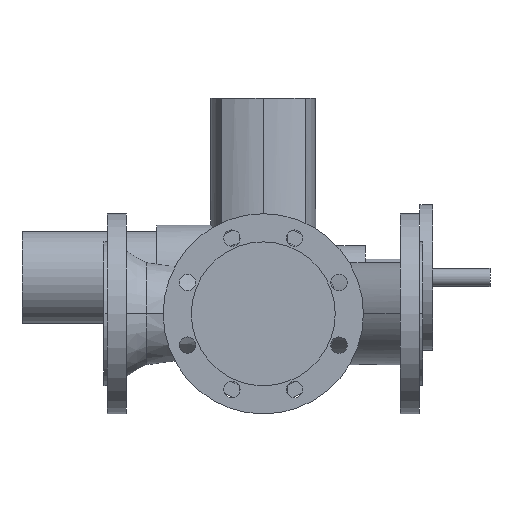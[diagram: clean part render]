
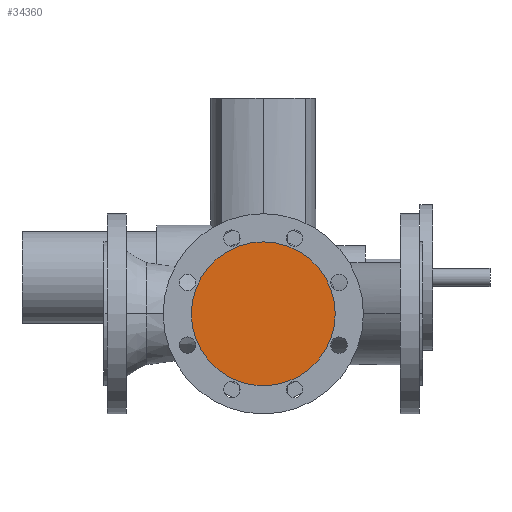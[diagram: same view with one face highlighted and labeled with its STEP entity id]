
A CAD part, front view. The second image highlights one B-rep face of the part: STEP entity #34360.
In plain terms, the highlighted planar face has unit normal (0, -1, 0).
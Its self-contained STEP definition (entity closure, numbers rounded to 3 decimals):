
#4350=CARTESIAN_POINT('',(96.,-150.,0.));
#4360=VERTEX_POINT('',#4350);
#4390=CARTESIAN_POINT('',(175.,-150.,0.));
#4400=DIRECTION('',(0.,1.,0.));
#4410=DIRECTION('',(1.,0.,0.));
#4420=AXIS2_PLACEMENT_3D('',#4390,#4400,#4410);
#4430=CIRCLE('',#4420,79.);
#4440=CARTESIAN_POINT('',(254.,-150.,0.));
#4450=VERTEX_POINT('',#4440);
#4460=EDGE_CURVE('',#4450,#4360,#4430,.T.);
#34260=CARTESIAN_POINT('',(214.5,-150.,0.));
#34270=DIRECTION('',(0.,-1.,0.));
#34280=DIRECTION('',(-1.,0.,0.));
#34290=AXIS2_PLACEMENT_3D('',#34260,#34270,#34280);
#34300=PLANE('',#34290);
#34310=EDGE_CURVE('',#4360,#4450,#4430,.T.);
#34320=ORIENTED_EDGE('',*,*,#34310,.F.);
#34330=ORIENTED_EDGE('',*,*,#4460,.F.);
#34340=EDGE_LOOP('',(#34330,#34320));
#34350=FACE_OUTER_BOUND('',#34340,.T.);
#34360=ADVANCED_FACE('',(#34350),#34300,.T.);
